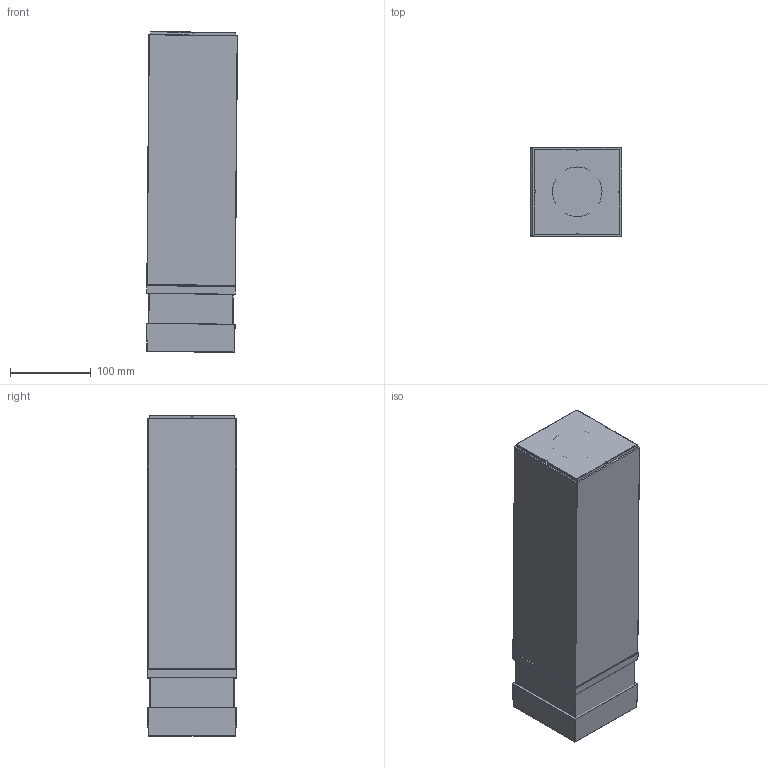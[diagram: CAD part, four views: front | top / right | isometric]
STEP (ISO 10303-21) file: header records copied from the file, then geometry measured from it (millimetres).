
FILE_DESCRIPTION((''),'2;1');
FILE_NAME('TOK_QL_H400_ASM','2025-07-30T11:57:07',('Manenti'),(''),'CREO PARAMETRIC BY PTC INC, 2025010','CREO PARAMETRIC BY PTC INC, 2025010','');
FILE_SCHEMA(('CONFIG_CONTROL_DESIGN'));
Length unit declared in the file: millimetre
Products named in the file (2): TOK-Q_ASM_1_1_2_3_ASM; TOK_QL_H400_ASM
Assembly tree (1 placements, depth 2):
  TOK_QL_H400_ASM
    TOK-Q_ASM_1_1_2_3_ASM
Bounding box: 113.11 x 110.34 x 398.1 mm (x, y, z)
Surface area: 262215.9 mm2 (no closed solid volume)
Topology: 0 solids, 19 shells, 101 faces, 275 edges, 182 vertices
Faces by surface type: cylinder 42, plane 35, sphere 12, torus 4, cone 4, bspline 4
Entity records: 3671 total; most frequent: CARTESIAN_POINT 1204, DIRECTION 525, ORIENTED_EDGE 420, EDGE_CURVE 263, AXIS2_PLACEMENT_3D 191, VERTEX_POINT 182, VECTOR 143, LINE 143
